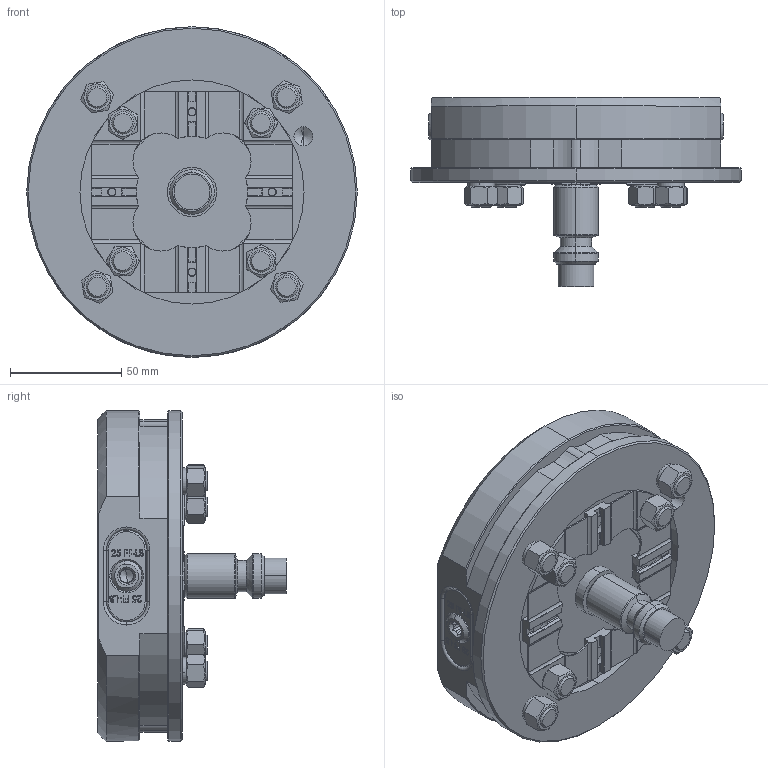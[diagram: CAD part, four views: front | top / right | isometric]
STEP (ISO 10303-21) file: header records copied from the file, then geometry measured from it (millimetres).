
FILE_DESCRIPTION (( 'STEP AP214' ), '1' );
FILE_NAME ('RL52S-ER148.STEP', '2019-05-12T15:27:04', ( '' ), ( '' ), 'SwSTEP 2.0', 'SolidWorks 2018', '' );
FILE_SCHEMA (( 'AUTOMOTIVE_DESIGN' ));
Length unit declared in the file: inch
Products named in the file (11): M10 X 50MM SOCKET HEAD CAP SCREW-1; 032699 SPIGOT-1; 036658 25MM SUPPORT FOOT-1; 036658 20MM SUPPORT FOOT-1; 032699 148MM PALLET CENTERING PLATE-1; HW22X16.DB; RL52-2ER REV A; RL52-2EL REV A; RL52-3E; RL52-1ER148S; RL52S-ER148
Assembly tree (19 placements, depth 2):
  RL52S-ER148
    RL52-1ER148S
    RL52-3E
    RL52-2EL REV A
    RL52-2ER REV A
    HW22X16.DB  x4
    032699 148MM PALLET CENTERING PLATE-1
    036658 20MM SUPPORT FOOT-1  x4
    036658 25MM SUPPORT FOOT-1  x4
    032699 SPIGOT-1
    M10 X 50MM SOCKET HEAD CAP SCREW-1
Bounding box: 148.3 x 84.66 x 148.3 mm (x, y, z)
Volume: 580723 mm3; surface area: 124198.5 mm2
Topology: 27 solids, 27 shells, 1282 faces, 3186 edges, 2008 vertices
Faces by surface type: plane 583, cylinder 378, cone 202, bspline 79, torus 40
Entity records: 41051 total; most frequent: CARTESIAN_POINT 12821, ORIENTED_EDGE 5300, DIRECTION 4934, EDGE_CURVE 2650, AXIS2_PLACEMENT_3D 1713, VERTEX_POINT 1702, VECTOR 1508, LINE 1508
